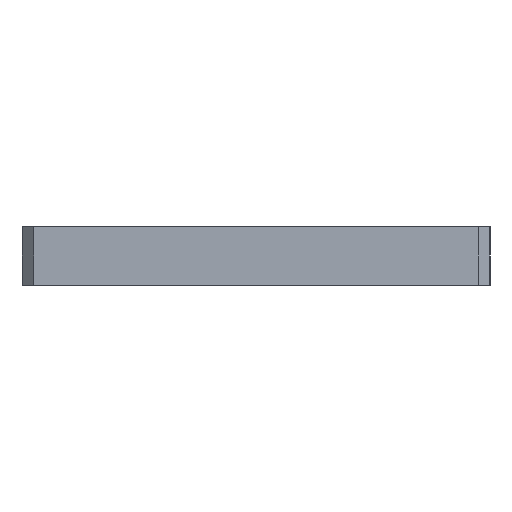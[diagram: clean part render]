
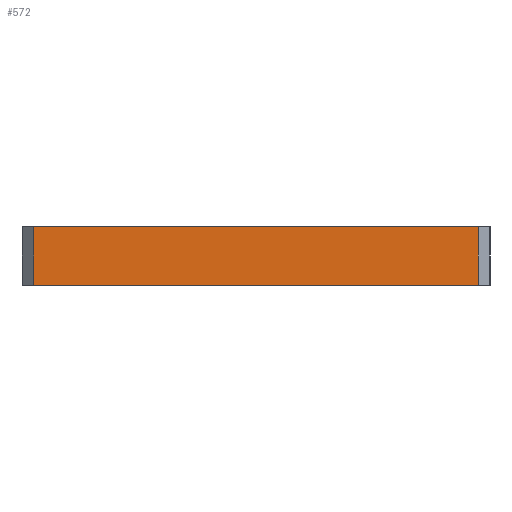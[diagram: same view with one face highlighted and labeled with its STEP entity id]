
A CAD part, left-side view. The second image highlights one B-rep face of the part: STEP entity #572.
In plain terms, the highlighted planar face has unit normal (-1, 0, 0).
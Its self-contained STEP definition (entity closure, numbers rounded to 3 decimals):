
#58 = LINE ( 'NONE', #867, #286 ) ;
#74 = DIRECTION ( 'NONE',  ( 0., -1., 0. ) ) ;
#81 = CARTESIAN_POINT ( 'NONE',  ( 0., 39., 5. ) ) ;
#94 = VECTOR ( 'NONE', #762, 1000. ) ;
#134 = EDGE_CURVE ( 'NONE', #595, #839, #232, .T. ) ;
#169 = CARTESIAN_POINT ( 'NONE',  ( 0., 39., 5. ) ) ;
#219 = CARTESIAN_POINT ( 'NONE',  ( 0., 1., 5. ) ) ;
#232 = LINE ( 'NONE', #656, #94 ) ;
#244 = DIRECTION ( 'NONE',  ( 1., 0., 0. ) ) ;
#254 = CARTESIAN_POINT ( 'NONE',  ( 0., 1., 0. ) ) ;
#270 = LINE ( 'NONE', #903, #1001 ) ;
#286 = VECTOR ( 'NONE', #1035, 1000. ) ;
#356 = DIRECTION ( 'NONE',  ( 0., 0., -1. ) ) ;
#476 = FACE_OUTER_BOUND ( 'NONE', #958, .T. ) ;
#527 = VECTOR ( 'NONE', #356, 1000. ) ;
#572 = ADVANCED_FACE ( 'NONE', ( #476 ), #622, .F. ) ;
#595 = VERTEX_POINT ( 'NONE', #254 ) ;
#622 = PLANE ( 'NONE',  #1002 ) ;
#656 = CARTESIAN_POINT ( 'NONE',  ( 0., 1., 5. ) ) ;
#701 = VERTEX_POINT ( 'NONE', #81 ) ;
#704 = ORIENTED_EDGE ( 'NONE', *, *, #134, .T. ) ;
#708 = CARTESIAN_POINT ( 'NONE',  ( 0., 0., 5. ) ) ;
#734 = EDGE_CURVE ( 'NONE', #701, #839, #270, .T. ) ;
#762 = DIRECTION ( 'NONE',  ( 0., 0., 1. ) ) ;
#763 = EDGE_CURVE ( 'NONE', #1121, #595, #58, .T. ) ;
#811 = ORIENTED_EDGE ( 'NONE', *, *, #763, .T. ) ;
#819 = CARTESIAN_POINT ( 'NONE',  ( 0., 39., 0. ) ) ;
#839 = VERTEX_POINT ( 'NONE', #219 ) ;
#867 = CARTESIAN_POINT ( 'NONE',  ( 0., 0., 0. ) ) ;
#903 = CARTESIAN_POINT ( 'NONE',  ( 0., 0., 5. ) ) ;
#958 = EDGE_LOOP ( 'NONE', ( #1042, #1022, #811, #704 ) ) ;
#988 = DIRECTION ( 'NONE',  ( 0., 0., -1. ) ) ;
#1001 = VECTOR ( 'NONE', #74, 1000. ) ;
#1002 = AXIS2_PLACEMENT_3D ( 'NONE', #708, #244, #988 ) ;
#1014 = LINE ( 'NONE', #169, #527 ) ;
#1022 = ORIENTED_EDGE ( 'NONE', *, *, #1163, .T. ) ;
#1035 = DIRECTION ( 'NONE',  ( 0., -1., 0. ) ) ;
#1042 = ORIENTED_EDGE ( 'NONE', *, *, #734, .F. ) ;
#1121 = VERTEX_POINT ( 'NONE', #819 ) ;
#1163 = EDGE_CURVE ( 'NONE', #701, #1121, #1014, .T. ) ;
